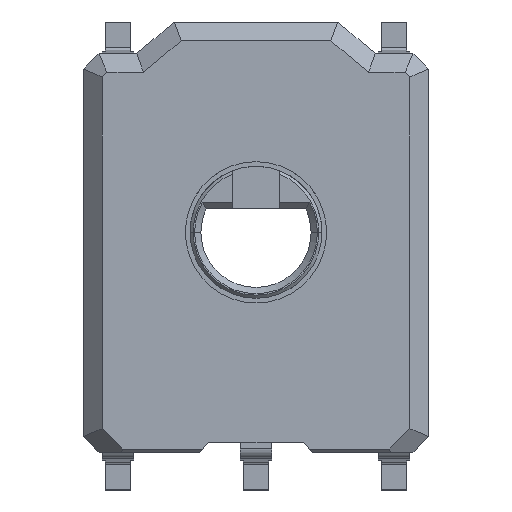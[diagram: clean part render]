
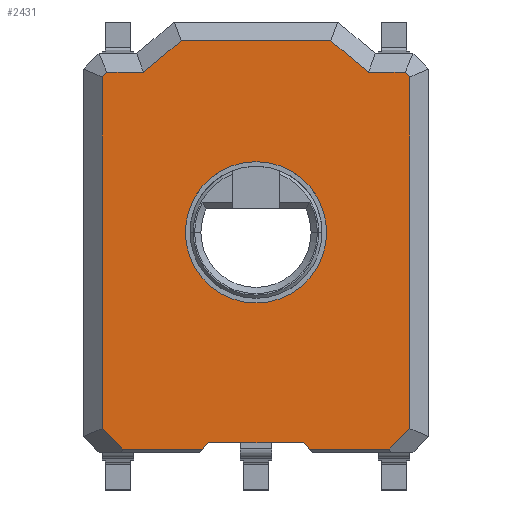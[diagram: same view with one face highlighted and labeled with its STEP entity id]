
A CAD part, top view. The second image highlights one B-rep face of the part: STEP entity #2431.
In plain terms, the highlighted planar face has unit normal (0, 0, 1).
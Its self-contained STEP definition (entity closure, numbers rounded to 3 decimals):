
#41 = ORIENTED_EDGE ( 'NONE', *, *, #13723, .T. ) ;
#46 = DIRECTION ( 'NONE',  ( -1., 0., 0. ) ) ;
#60 = ORIENTED_EDGE ( 'NONE', *, *, #3186, .T. ) ;
#109 = DIRECTION ( 'NONE',  ( 0.707, 0.707, 0. ) ) ;
#405 = CARTESIAN_POINT ( 'NONE',  ( 1.8, -7., 3.2 ) ) ;
#476 = EDGE_LOOP ( 'NONE', ( #12021, #14412, #11669, #8468, #8180, #910, #12003, #2410, #1896, #9422, #41, #1994, #14382, #12091, #15795, #7331 ) ) ;
#697 = LINE ( 'NONE', #784, #10957 ) ;
#784 = CARTESIAN_POINT ( 'NONE',  ( 4.9, 4.951, 3.2 ) ) ;
#910 = ORIENTED_EDGE ( 'NONE', *, *, #9920, .T. ) ;
#956 = EDGE_CURVE ( 'NONE', #15806, #4535, #12942, .T. ) ;
#1088 = CARTESIAN_POINT ( 'NONE',  ( 2.383, 6.1, 3.2 ) ) ;
#1117 = CARTESIAN_POINT ( 'NONE',  ( -3.583, 5.1, 3.2 ) ) ;
#1130 = EDGE_CURVE ( 'NONE', #8559, #10930, #10767, .T. ) ;
#1342 = CARTESIAN_POINT ( 'NONE',  ( 0., -6.9, 3.2 ) ) ;
#1420 = CARTESIAN_POINT ( 'NONE',  ( 1.7, -6.9, 3.2 ) ) ;
#1437 = DIRECTION ( 'NONE',  ( 1., 0., 0. ) ) ;
#1526 = DIRECTION ( 'NONE',  ( -1., 0., 0. ) ) ;
#1611 = VECTOR ( 'NONE', #4114, 1000. ) ;
#1616 = PLANE ( 'NONE',  #11762 ) ;
#1653 = CARTESIAN_POINT ( 'NONE',  ( 4.251, -6.9, 3.2 ) ) ;
#1704 = LINE ( 'NONE', #405, #1611 ) ;
#1896 = ORIENTED_EDGE ( 'NONE', *, *, #15277, .T. ) ;
#1960 = CARTESIAN_POINT ( 'NONE',  ( 1.5, -6.7, 3.2 ) ) ;
#1994 = ORIENTED_EDGE ( 'NONE', *, *, #15862, .F. ) ;
#2276 = CARTESIAN_POINT ( 'NONE',  ( -4.9, 4.951, 3.2 ) ) ;
#2410 = ORIENTED_EDGE ( 'NONE', *, *, #3246, .T. ) ;
#2431 = ADVANCED_FACE ( 'NONE', ( #15031, #2662 ), #1616, .T. ) ;
#2544 = DIRECTION ( 'NONE',  ( -0.768, -0.64, 0. ) ) ;
#2565 = DIRECTION ( 'NONE',  ( 1., 0., 0. ) ) ;
#2620 = EDGE_CURVE ( 'NONE', #5883, #13834, #4876, .T. ) ;
#2662 = FACE_BOUND ( 'NONE', #8318, .T. ) ;
#2758 = CARTESIAN_POINT ( 'NONE',  ( 0., 0., 3.2 ) ) ;
#3018 = VERTEX_POINT ( 'NONE', #13457 ) ;
#3057 = VERTEX_POINT ( 'NONE', #1088 ) ;
#3186 = EDGE_CURVE ( 'NONE', #11044, #3018, #9778, .T. ) ;
#3246 = EDGE_CURVE ( 'NONE', #4535, #9265, #15755, .T. ) ;
#3268 = DIRECTION ( 'NONE',  ( -0.707, -0.707, 0. ) ) ;
#3531 = DIRECTION ( 'NONE',  ( 1., 0., 0. ) ) ;
#3574 = VECTOR ( 'NONE', #9057, 1000. ) ;
#3681 = VERTEX_POINT ( 'NONE', #12589 ) ;
#3741 = VECTOR ( 'NONE', #5090, 1000. ) ;
#3872 = CARTESIAN_POINT ( 'NONE',  ( 0., 6.1, 3.2 ) ) ;
#4076 = EDGE_CURVE ( 'NONE', #3057, #8559, #11440, .T. ) ;
#4114 = DIRECTION ( 'NONE',  ( -0.707, 0.707, 0. ) ) ;
#4362 = AXIS2_PLACEMENT_3D ( 'NONE', #2758, #5500, #11527 ) ;
#4509 = CARTESIAN_POINT ( 'NONE',  ( -4.9, -6.251, 3.2 ) ) ;
#4535 = VERTEX_POINT ( 'NONE', #11465 ) ;
#4876 = LINE ( 'NONE', #9826, #6894 ) ;
#4984 = EDGE_CURVE ( 'NONE', #10930, #5460, #12639, .T. ) ;
#5090 = DIRECTION ( 'NONE',  ( 1., 0., 0. ) ) ;
#5123 = CARTESIAN_POINT ( 'NONE',  ( -4.751, 5.1, 3.2 ) ) ;
#5335 = LINE ( 'NONE', #10262, #8138 ) ;
#5399 = VERTEX_POINT ( 'NONE', #8599 ) ;
#5460 = VERTEX_POINT ( 'NONE', #7130 ) ;
#5485 = VECTOR ( 'NONE', #10543, 1000. ) ;
#5500 = DIRECTION ( 'NONE',  ( 0., 0., -1. ) ) ;
#5632 = CARTESIAN_POINT ( 'NONE',  ( -4.9, 0., 3.2 ) ) ;
#5707 = LINE ( 'NONE', #9429, #13292 ) ;
#5834 = ORIENTED_EDGE ( 'NONE', *, *, #7106, .T. ) ;
#5883 = VERTEX_POINT ( 'NONE', #1420 ) ;
#6014 = EDGE_CURVE ( 'NONE', #7309, #6322, #12510, .T. ) ;
#6274 = DIRECTION ( 'NONE',  ( 1., 0., 0. ) ) ;
#6322 = VERTEX_POINT ( 'NONE', #7811 ) ;
#6442 = VECTOR ( 'NONE', #15514, 1000. ) ;
#6894 = VECTOR ( 'NONE', #2565, 1000. ) ;
#7106 = EDGE_CURVE ( 'NONE', #3018, #11044, #11063, .T. ) ;
#7130 = CARTESIAN_POINT ( 'NONE',  ( -4.751, 5.1, 3.2 ) ) ;
#7163 = EDGE_CURVE ( 'NONE', #6322, #3057, #13861, .T. ) ;
#7192 = AXIS2_PLACEMENT_3D ( 'NONE', #8241, #9615, #3531 ) ;
#7206 = LINE ( 'NONE', #8510, #8278 ) ;
#7309 = VERTEX_POINT ( 'NONE', #9457 ) ;
#7331 = ORIENTED_EDGE ( 'NONE', *, *, #13661, .T. ) ;
#7811 = CARTESIAN_POINT ( 'NONE',  ( 3.583, 5.1, 3.2 ) ) ;
#7819 = DIRECTION ( 'NONE',  ( -1., 0., 0. ) ) ;
#8138 = VECTOR ( 'NONE', #15149, 1000. ) ;
#8151 = CARTESIAN_POINT ( 'NONE',  ( 4.9, -6.251, 3.2 ) ) ;
#8180 = ORIENTED_EDGE ( 'NONE', *, *, #4984, .T. ) ;
#8241 = CARTESIAN_POINT ( 'NONE',  ( 0., 0., 3.2 ) ) ;
#8278 = VECTOR ( 'NONE', #109, 1000. ) ;
#8318 = EDGE_LOOP ( 'NONE', ( #5834, #60 ) ) ;
#8468 = ORIENTED_EDGE ( 'NONE', *, *, #1130, .T. ) ;
#8510 = CARTESIAN_POINT ( 'NONE',  ( 4.251, -6.9, 3.2 ) ) ;
#8559 = VERTEX_POINT ( 'NONE', #9079 ) ;
#8599 = CARTESIAN_POINT ( 'NONE',  ( -1.7, -6.9, 3.2 ) ) ;
#8786 = VERTEX_POINT ( 'NONE', #8151 ) ;
#9057 = DIRECTION ( 'NONE',  ( -0.768, 0.64, 0. ) ) ;
#9079 = CARTESIAN_POINT ( 'NONE',  ( -2.383, 6.1, 3.2 ) ) ;
#9154 = VERTEX_POINT ( 'NONE', #1960 ) ;
#9265 = VERTEX_POINT ( 'NONE', #9776 ) ;
#9422 = ORIENTED_EDGE ( 'NONE', *, *, #11948, .F. ) ;
#9429 = CARTESIAN_POINT ( 'NONE',  ( -1.8, -7., 3.2 ) ) ;
#9457 = CARTESIAN_POINT ( 'NONE',  ( 4.751, 5.1, 3.2 ) ) ;
#9615 = DIRECTION ( 'NONE',  ( 0., 0., -1. ) ) ;
#9776 = CARTESIAN_POINT ( 'NONE',  ( -4.251, -6.9, 3.2 ) ) ;
#9778 = CIRCLE ( 'NONE', #7192, 2.25 ) ;
#9826 = CARTESIAN_POINT ( 'NONE',  ( 0., -6.9, 3.2 ) ) ;
#9920 = EDGE_CURVE ( 'NONE', #5460, #15806, #13727, .T. ) ;
#9952 = CARTESIAN_POINT ( 'NONE',  ( 0., -6.7, 3.2 ) ) ;
#10058 = DIRECTION ( 'NONE',  ( -0.707, -0.707, 0. ) ) ;
#10229 = CARTESIAN_POINT ( 'NONE',  ( 0., 0., 3.2 ) ) ;
#10262 = CARTESIAN_POINT ( 'NONE',  ( 4.9, 0., 3.2 ) ) ;
#10543 = DIRECTION ( 'NONE',  ( 0., -1., 0. ) ) ;
#10767 = LINE ( 'NONE', #15723, #13741 ) ;
#10930 = VERTEX_POINT ( 'NONE', #1117 ) ;
#10957 = VECTOR ( 'NONE', #15403, 1000. ) ;
#11044 = VERTEX_POINT ( 'NONE', #12521 ) ;
#11063 = CIRCLE ( 'NONE', #4362, 2.25 ) ;
#11101 = VECTOR ( 'NONE', #7819, 1000. ) ;
#11321 = VECTOR ( 'NONE', #1526, 1000. ) ;
#11371 = EDGE_CURVE ( 'NONE', #8786, #3681, #5335, .T. ) ;
#11440 = LINE ( 'NONE', #3872, #11101 ) ;
#11465 = CARTESIAN_POINT ( 'NONE',  ( -4.9, -6.251, 3.2 ) ) ;
#11527 = DIRECTION ( 'NONE',  ( 1., 0., 0. ) ) ;
#11589 = CARTESIAN_POINT ( 'NONE',  ( 0., 5.1, 3.2 ) ) ;
#11669 = ORIENTED_EDGE ( 'NONE', *, *, #4076, .T. ) ;
#11762 = AXIS2_PLACEMENT_3D ( 'NONE', #10229, #13666, #1437 ) ;
#11948 = EDGE_CURVE ( 'NONE', #13051, #5399, #5707, .T. ) ;
#12003 = ORIENTED_EDGE ( 'NONE', *, *, #956, .T. ) ;
#12021 = ORIENTED_EDGE ( 'NONE', *, *, #6014, .T. ) ;
#12053 = VECTOR ( 'NONE', #6274, 1000. ) ;
#12091 = ORIENTED_EDGE ( 'NONE', *, *, #15553, .T. ) ;
#12196 = CARTESIAN_POINT ( 'NONE',  ( 0., 5.1, 3.2 ) ) ;
#12510 = LINE ( 'NONE', #12196, #12544 ) ;
#12521 = CARTESIAN_POINT ( 'NONE',  ( -2.25, 0., 3.2 ) ) ;
#12544 = VECTOR ( 'NONE', #46, 1000. ) ;
#12589 = CARTESIAN_POINT ( 'NONE',  ( 4.9, 4.951, 3.2 ) ) ;
#12639 = LINE ( 'NONE', #11589, #11321 ) ;
#12942 = LINE ( 'NONE', #5632, #5485 ) ;
#13051 = VERTEX_POINT ( 'NONE', #14993 ) ;
#13292 = VECTOR ( 'NONE', #3268, 1000. ) ;
#13457 = CARTESIAN_POINT ( 'NONE',  ( 2.25, 0., 3.2 ) ) ;
#13501 = VECTOR ( 'NONE', #10058, 1000. ) ;
#13558 = LINE ( 'NONE', #1342, #12053 ) ;
#13661 = EDGE_CURVE ( 'NONE', #3681, #7309, #697, .T. ) ;
#13666 = DIRECTION ( 'NONE',  ( 0., 0., 1. ) ) ;
#13723 = EDGE_CURVE ( 'NONE', #13051, #9154, #14923, .T. ) ;
#13727 = LINE ( 'NONE', #5123, #13501 ) ;
#13741 = VECTOR ( 'NONE', #2544, 1000. ) ;
#13834 = VERTEX_POINT ( 'NONE', #1653 ) ;
#13861 = LINE ( 'NONE', #14015, #3574 ) ;
#14015 = CARTESIAN_POINT ( 'NONE',  ( 3.583, 5.1, 3.2 ) ) ;
#14382 = ORIENTED_EDGE ( 'NONE', *, *, #2620, .T. ) ;
#14412 = ORIENTED_EDGE ( 'NONE', *, *, #7163, .T. ) ;
#14923 = LINE ( 'NONE', #9952, #3741 ) ;
#14993 = CARTESIAN_POINT ( 'NONE',  ( -1.5, -6.7, 3.2 ) ) ;
#15031 = FACE_OUTER_BOUND ( 'NONE', #476, .T. ) ;
#15149 = DIRECTION ( 'NONE',  ( 0., 1., 0. ) ) ;
#15277 = EDGE_CURVE ( 'NONE', #9265, #5399, #13558, .T. ) ;
#15403 = DIRECTION ( 'NONE',  ( -0.707, 0.707, 0. ) ) ;
#15514 = DIRECTION ( 'NONE',  ( 0.707, -0.707, 0. ) ) ;
#15553 = EDGE_CURVE ( 'NONE', #13834, #8786, #7206, .T. ) ;
#15723 = CARTESIAN_POINT ( 'NONE',  ( -2.383, 6.1, 3.2 ) ) ;
#15755 = LINE ( 'NONE', #4509, #6442 ) ;
#15795 = ORIENTED_EDGE ( 'NONE', *, *, #11371, .T. ) ;
#15806 = VERTEX_POINT ( 'NONE', #2276 ) ;
#15862 = EDGE_CURVE ( 'NONE', #5883, #9154, #1704, .T. ) ;
